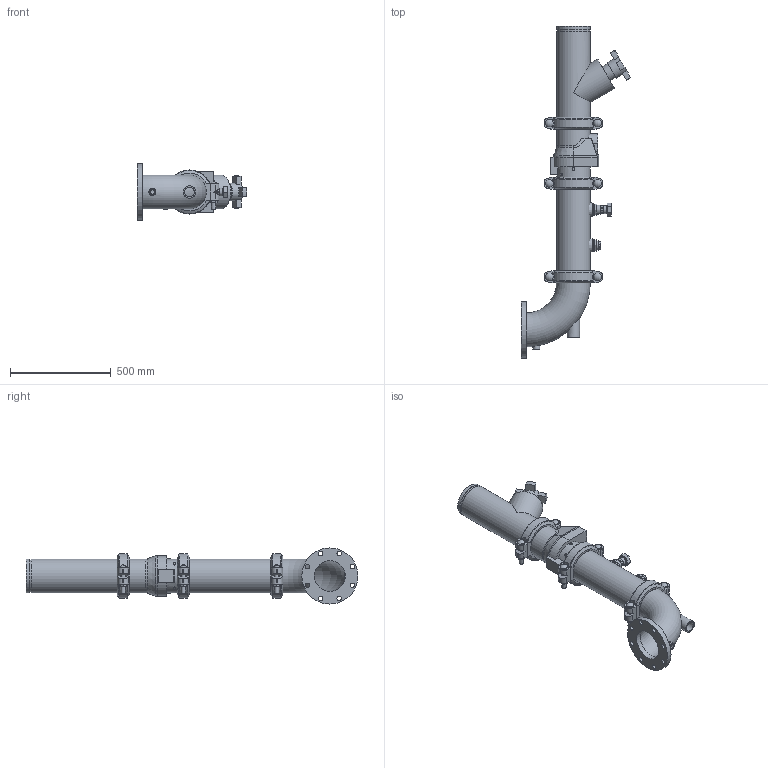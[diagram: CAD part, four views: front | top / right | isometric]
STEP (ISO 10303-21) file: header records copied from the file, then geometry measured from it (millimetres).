
FILE_DESCRIPTION(/* description */ ('VIC DVI PUMP DROP HORZ S/383 (OGSxFLG) (S/924-1.25)','CAx-IF Rec.Pracs.---Representation and Presentation of Product Manufacturing Information (PMI)---4.0---2014-10-13'),/* implementation_level */ '2;1');
FILE_NAME(/* name */ 'C:\Users\kkamble\AppData\Roaming\Autodesk\ApplicationPlugins\Victaulic.Temp\A821\CL 150_Series 383 (OGSxFLG)_924 (1.25)_06.0x06.0 (150x150).stp',/* time_stamp */ '2022-03-16T18:46:26+05:00',/* author */ ('kkamble'),/* organization */ ('Victaulic'),/* preprocessor_version */ 'ST-DEVELOPER v17.2',/* originating_system */ 'Autodesk Inventor 2019',/* authorisation */ '');
FILE_SCHEMA (('AP242_MANAGED_MODEL_BASED_3D_ENGINEERING_MIM_LF { 1 0 10303 442 1 1 4 }'));
Length unit declared in the file: inch
Products named in the file (8): 383_924 (1.25)-06.0x06.0; Pipe-06.0x06.0; 789-06.0; 177N-06.0; 779-06.0; 924-04.0x01.25; 923-04.0x0.75; 100F-06.0
Assembly tree (9 placements, depth 2):
  383_924 (1.25)-06.0x06.0
    177N-06.0  x3
    Pipe-06.0x06.0
    789-06.0
    779-06.0
    924-04.0x01.25
    923-04.0x0.75
    100F-06.0
Bounding box: 546.1 x 1651 x 279.4 mm (x, y, z)
Volume: 15883956.4 mm3; surface area: 2544436 mm2
Topology: 9 solids, 10 shells, 544 faces, 1422 edges, 954 vertices
Faces by surface type: plane 316, cylinder 182, torus 21, cone 17, sphere 6, bspline 2
Full cylindrical faces by diameter (mm): 13.716 x4, 20.93 x1, 21.209 x6, 21.336 x1, 22.352 x8, 26.67 x4, 34.29 x1, 37.694 x6, 38.608 x1, 42.164 x1, 45.974 x4, 48.26 x1, 48.514 x1, 55.626 x2, 60.96 x1, 79.375 x1, 88.9 x1, 154.051 x5, 155.575 x3, 163.957 x7, 168.275 x18, 279.4 x1
Entity records: 12411 total; most frequent: CARTESIAN_POINT 2686, DIRECTION 1997, ORIENTED_EDGE 1824, EDGE_CURVE 912, AXIS2_PLACEMENT_3D 763, VERTEX_POINT 618, LINE 471, VECTOR 471
